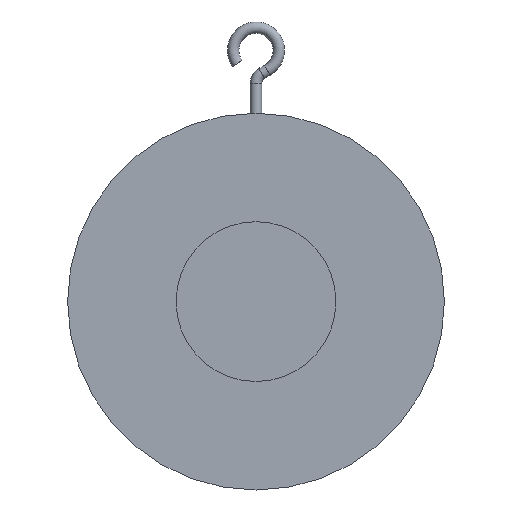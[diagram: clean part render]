
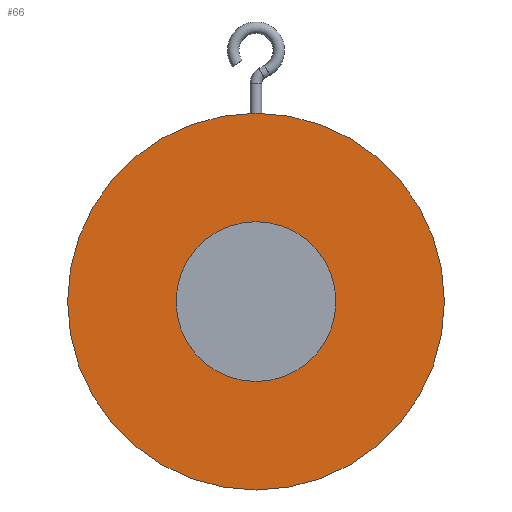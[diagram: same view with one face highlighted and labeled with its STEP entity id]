
A CAD part, front view. The second image highlights one B-rep face of the part: STEP entity #66.
In plain terms, the highlighted planar face has unit normal (0, -1, 0).
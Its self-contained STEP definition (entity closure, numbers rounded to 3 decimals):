
#66=ADVANCED_FACE('',(#203,#205),#207,.T.);
#203=FACE_BOUND('',#204,.T.);
#204=EDGE_LOOP('',(#315));
#205=FACE_BOUND('',#206,.T.);
#206=EDGE_LOOP('',(#316));
#207=PLANE('',#208);
#208=AXIS2_PLACEMENT_3D('',#209,#210,#211);
#209=CARTESIAN_POINT('',(0.,-9.,0.));
#210=DIRECTION('',(0.,-1.,0.));
#211=DIRECTION('',(0.,0.,1.));
#315=ORIENTED_EDGE('',*,*,#356,.F.);
#316=ORIENTED_EDGE('',*,*,#358,.T.);
#356=EDGE_CURVE('',#383,#383,#384,.T.);
#358=EDGE_CURVE('',#387,#387,#388,.T.);
#383=VERTEX_POINT('',#597);
#384=CIRCLE('',#598,82.5);
#387=VERTEX_POINT('',#607);
#388=CIRCLE('',#608,35.);
#597=CARTESIAN_POINT('',(0.,-9.,82.5));
#598=AXIS2_PLACEMENT_3D('',#599,#600,#601);
#599=CARTESIAN_POINT('',(0.,-9.,0.));
#600=DIRECTION('',(0.,1.,0.));
#601=DIRECTION('',(0.,0.,1.));
#607=CARTESIAN_POINT('',(0.,-9.,35.));
#608=AXIS2_PLACEMENT_3D('',#609,#610,#611);
#609=CARTESIAN_POINT('',(0.,-9.,0.));
#610=DIRECTION('',(0.,1.,0.));
#611=DIRECTION('',(0.,0.,1.));
